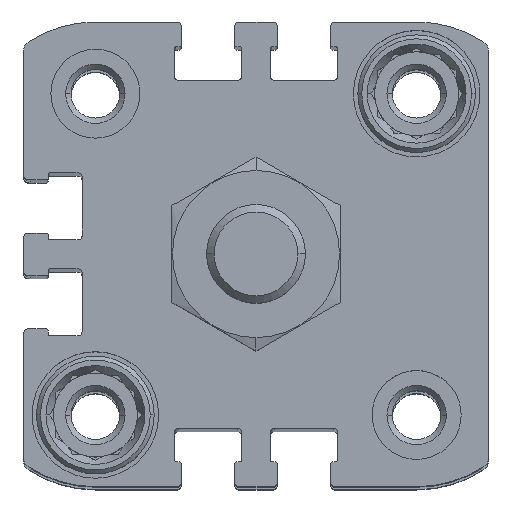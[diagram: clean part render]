
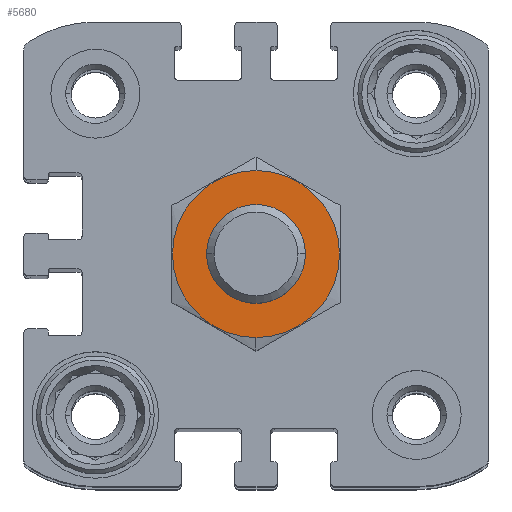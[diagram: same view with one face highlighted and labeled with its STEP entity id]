
A CAD part, top view. The second image highlights one B-rep face of the part: STEP entity #5680.
In plain terms, the highlighted planar face has unit normal (0, 0, 1) as drawn and (0, 1, 0) by its records, which use the part's own axes.
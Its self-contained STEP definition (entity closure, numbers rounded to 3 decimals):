
#442 = VERTEX_POINT ( 'NONE', #8432 ) ;
#665 = EDGE_CURVE ( 'NONE', #14349, #442, #3635, .T. ) ;
#915 = DIRECTION ( 'NONE',  ( 0., 0., -1. ) ) ;
#1835 = VERTEX_POINT ( 'NONE', #4955 ) ;
#1977 = CARTESIAN_POINT ( 'NONE',  ( 0., 0., 0. ) ) ;
#2151 = ORIENTED_EDGE ( 'NONE', *, *, #665, .F. ) ;
#2724 = EDGE_CURVE ( 'NONE', #13331, #1835, #5158, .T. ) ;
#2936 = CARTESIAN_POINT ( 'NONE',  ( 0., 0., 0. ) ) ;
#3105 = ORIENTED_EDGE ( 'NONE', *, *, #2724, .F. ) ;
#3237 = DIRECTION ( 'NONE',  ( 0., 0., 1. ) ) ;
#3614 = CIRCLE ( 'NONE', #5695, 8.45 ) ;
#3635 = CIRCLE ( 'NONE', #6880, 8.45 ) ;
#4186 = DIRECTION ( 'NONE',  ( 0., 1., 0. ) ) ;
#4798 = CARTESIAN_POINT ( 'NONE',  ( 0., 0., 5. ) ) ;
#4955 = CARTESIAN_POINT ( 'NONE',  ( 0., 0., -5. ) ) ;
#5158 = CIRCLE ( 'NONE', #9443, 5. ) ;
#5463 = DIRECTION ( 'NONE',  ( 0., 0., 1. ) ) ;
#5663 = PLANE ( 'NONE',  #7421 ) ;
#5680 = ADVANCED_FACE ( 'NONE', ( #13229, #7294 ), #5663, .F. ) ;
#5695 = AXIS2_PLACEMENT_3D ( 'NONE', #15971, #8505, #915 ) ;
#6047 = CARTESIAN_POINT ( 'NONE',  ( 0., 0., 0. ) ) ;
#6310 = DIRECTION ( 'NONE',  ( 0., -1., 0. ) ) ;
#6384 = DIRECTION ( 'NONE',  ( 0., 0., -1. ) ) ;
#6880 = AXIS2_PLACEMENT_3D ( 'NONE', #12600, #12762, #12815 ) ;
#7294 = FACE_OUTER_BOUND ( 'NONE', #14178, .T. ) ;
#7421 = AXIS2_PLACEMENT_3D ( 'NONE', #6047, #6310, #6384 ) ;
#8432 = CARTESIAN_POINT ( 'NONE',  ( 0., 0., -8.45 ) ) ;
#8505 = DIRECTION ( 'NONE',  ( 0., -1., 0. ) ) ;
#9106 = EDGE_CURVE ( 'NONE', #442, #14349, #3614, .T. ) ;
#9443 = AXIS2_PLACEMENT_3D ( 'NONE', #2936, #4186, #5463 ) ;
#10185 = ORIENTED_EDGE ( 'NONE', *, *, #9106, .F. ) ;
#10832 = DIRECTION ( 'NONE',  ( 0., 1., 0. ) ) ;
#11947 = CARTESIAN_POINT ( 'NONE',  ( 0., 0., 8.45 ) ) ;
#11966 = CIRCLE ( 'NONE', #15318, 5. ) ;
#12600 = CARTESIAN_POINT ( 'NONE',  ( 0., 0., 0. ) ) ;
#12762 = DIRECTION ( 'NONE',  ( 0., -1., 0. ) ) ;
#12815 = DIRECTION ( 'NONE',  ( 0., 0., -1. ) ) ;
#13229 = FACE_BOUND ( 'NONE', #15054, .T. ) ;
#13331 = VERTEX_POINT ( 'NONE', #4798 ) ;
#14178 = EDGE_LOOP ( 'NONE', ( #10185, #2151 ) ) ;
#14349 = VERTEX_POINT ( 'NONE', #11947 ) ;
#14757 = ORIENTED_EDGE ( 'NONE', *, *, #15793, .F. ) ;
#15054 = EDGE_LOOP ( 'NONE', ( #3105, #14757 ) ) ;
#15318 = AXIS2_PLACEMENT_3D ( 'NONE', #1977, #10832, #3237 ) ;
#15793 = EDGE_CURVE ( 'NONE', #1835, #13331, #11966, .T. ) ;
#15971 = CARTESIAN_POINT ( 'NONE',  ( 0., 0., 0. ) ) ;
